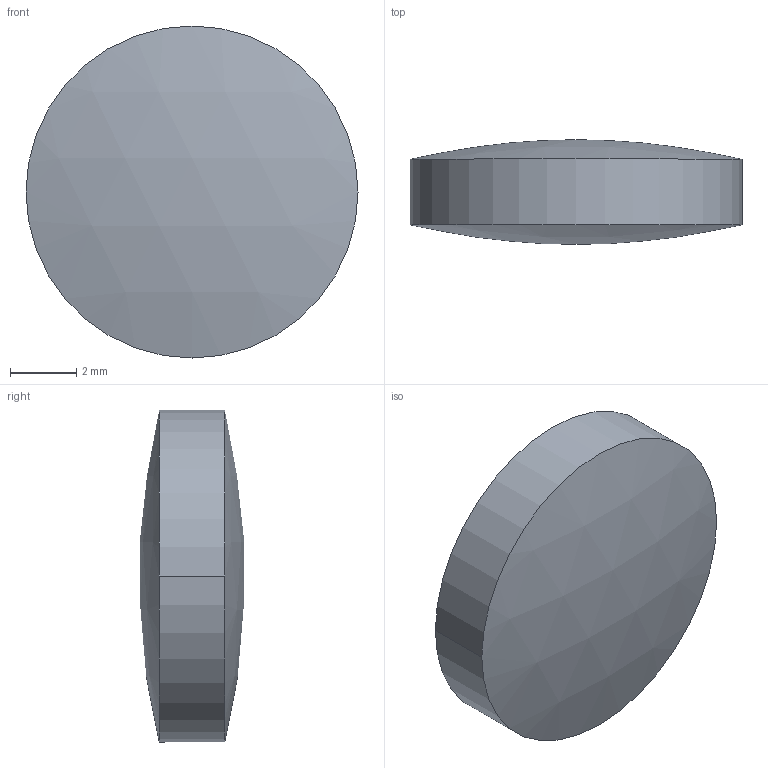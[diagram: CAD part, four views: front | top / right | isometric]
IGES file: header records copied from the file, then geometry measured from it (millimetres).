
Global section: file name: No Iges File Name specified; native system: AutoDesk Inventor R12.0; preprocessor: AutoDesk Inventor Iges Exporter R12.0; author: No Author specified; organization: No Organization specified; date: 20090513.130313; units: millimetre
Bounding box: 10 x 3.15 x 10 mm (x, y, z)
Volume: 203.6 mm3; surface area: 221.6 mm2
Topology: 1 solids, 1 shells, 4 faces, 6 edges, 4 vertices
Faces by surface type: cylinder 2, sphere 2
